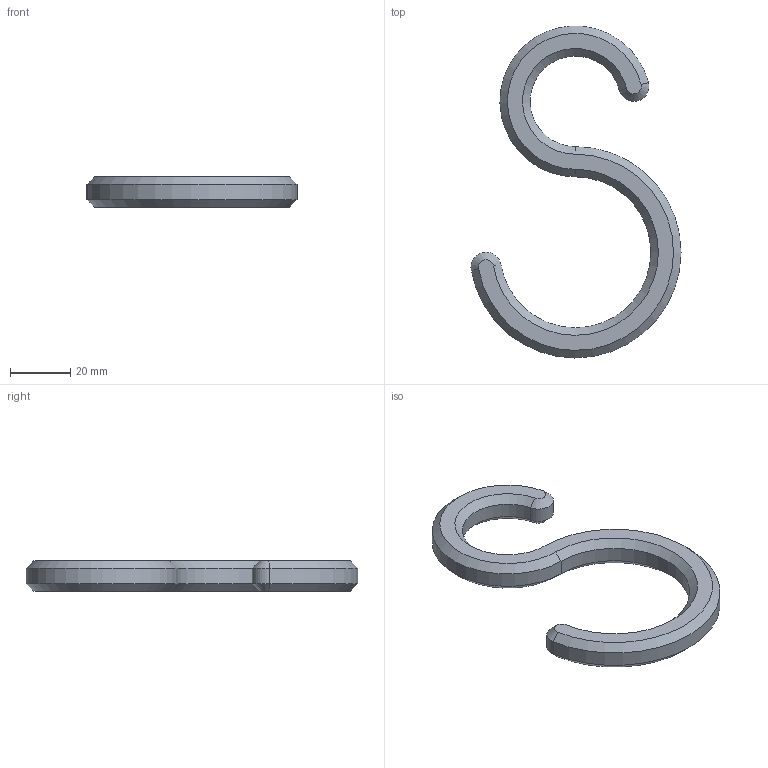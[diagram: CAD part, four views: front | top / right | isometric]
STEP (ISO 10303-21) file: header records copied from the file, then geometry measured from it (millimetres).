
FILE_DESCRIPTION(/* description */ (''),/* implementation_level */ '2;1');
FILE_NAME(/* name */ 'S-Hook A-B v2.step',/* time_stamp */ '2023-04-30T17:59:36-07:00',/* author */ (''),/* organization */ (''),/* preprocessor_version */ 'ST-DEVELOPER v19.2',/* originating_system */ 'Autodesk Translation Framework v12.4.0.73',/* authorisation */ '');
FILE_SCHEMA (('AUTOMOTIVE_DESIGN { 1 0 10303 214 3 1 1 }'));
Length unit declared in the file: millimetre
Products named in the file (1): S-Hook A-B
Bounding box: 69.58 x 109.96 x 10 mm (x, y, z)
Volume: 20356.7 mm3; surface area: 8063.5 mm2
Topology: 1 solids, 1 shells, 20 faces, 42 edges, 24 vertices
Faces by surface type: cone 12, cylinder 6, plane 2
Entity records: 567 total; most frequent: DIRECTION 108, CARTESIAN_POINT 87, ORIENTED_EDGE 84, AXIS2_PLACEMENT_3D 45, EDGE_CURVE 42, CIRCLE 24, VERTEX_POINT 24, FACE_OUTER_BOUND 20
